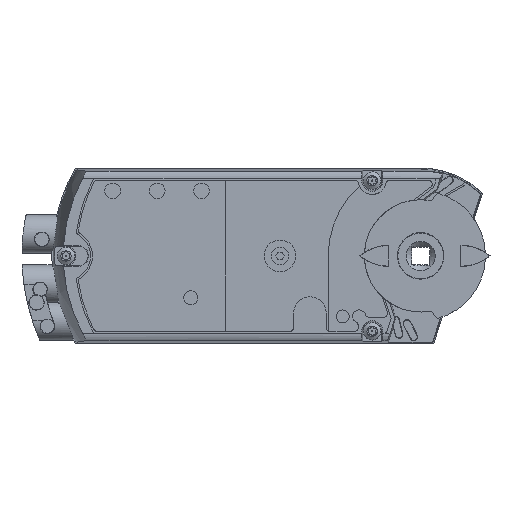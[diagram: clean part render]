
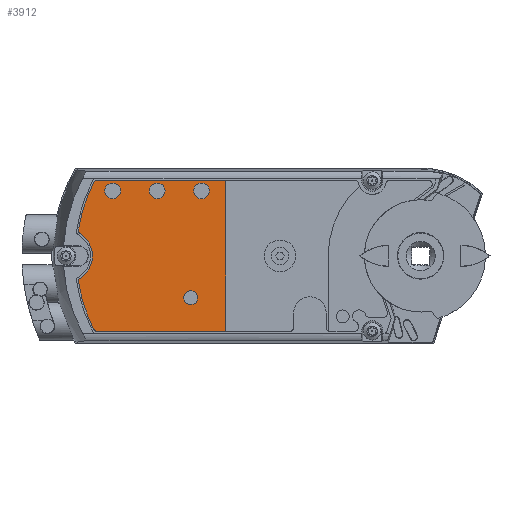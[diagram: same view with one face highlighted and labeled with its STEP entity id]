
A CAD part, top view. The second image highlights one B-rep face of the part: STEP entity #3912.
In plain terms, the highlighted planar face has unit normal (0, 0, 1).
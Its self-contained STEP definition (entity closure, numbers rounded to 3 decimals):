
#3912=ADVANCED_FACE('',(#5640,#5641,#5642,#5643,#5644),#4358,.T.);
#4358=PLANE('',#10951);
#4588=LINE('',#14211,#5116);
#4592=LINE('',#14233,#5120);
#4593=LINE('',#14235,#5121);
#5116=VECTOR('',#11875,1.);
#5120=VECTOR('',#11895,1.);
#5121=VECTOR('',#11896,1.);
#5640=FACE_BOUND('',#5801,.T.);
#5641=FACE_BOUND('',#5802,.T.);
#5642=FACE_BOUND('',#5803,.T.);
#5643=FACE_BOUND('',#5804,.T.);
#5644=FACE_BOUND('',#5805,.T.);
#5801=EDGE_LOOP('',(#6368));
#5802=EDGE_LOOP('',(#6369));
#5803=EDGE_LOOP('',(#6370));
#5804=EDGE_LOOP('',(#6371));
#5805=EDGE_LOOP('',(#6372,#6373,#6374,#6375,#6376,#6377,#6378,#6379,#6380,
#6381));
#6368=ORIENTED_EDGE('',*,*,#9381,.F.);
#6369=ORIENTED_EDGE('',*,*,#9382,.F.);
#6370=ORIENTED_EDGE('',*,*,#9383,.F.);
#6371=ORIENTED_EDGE('',*,*,#9384,.F.);
#6372=ORIENTED_EDGE('',*,*,#9385,.T.);
#6373=ORIENTED_EDGE('',*,*,#9374,.T.);
#6374=ORIENTED_EDGE('',*,*,#9386,.F.);
#6375=ORIENTED_EDGE('',*,*,#9387,.T.);
#6376=ORIENTED_EDGE('',*,*,#9388,.T.);
#6377=ORIENTED_EDGE('',*,*,#9389,.T.);
#6378=ORIENTED_EDGE('',*,*,#9390,.F.);
#6379=ORIENTED_EDGE('',*,*,#9391,.T.);
#6380=ORIENTED_EDGE('',*,*,#9392,.T.);
#6381=ORIENTED_EDGE('',*,*,#9393,.T.);
#8609=VERTEX_POINT('',#14210);
#8610=VERTEX_POINT('',#14212);
#8616=VERTEX_POINT('',#14226);
#8617=VERTEX_POINT('',#14228);
#8618=VERTEX_POINT('',#14230);
#8619=VERTEX_POINT('',#14232);
#8620=VERTEX_POINT('',#14234);
#8621=VERTEX_POINT('',#14236);
#8622=VERTEX_POINT('',#14238);
#8623=VERTEX_POINT('',#14240);
#8624=VERTEX_POINT('',#14242);
#8625=VERTEX_POINT('',#14244);
#8626=VERTEX_POINT('',#14246);
#8627=VERTEX_POINT('',#14248);
#9374=EDGE_CURVE('',#8610,#8609,#4588,.T.);
#9381=EDGE_CURVE('',#8616,#8616,#10489,.T.);
#9382=EDGE_CURVE('',#8617,#8617,#10490,.T.);
#9383=EDGE_CURVE('',#8618,#8618,#10491,.T.);
#9384=EDGE_CURVE('',#8619,#8619,#10492,.T.);
#9385=EDGE_CURVE('',#8620,#8610,#4592,.T.);
#9386=EDGE_CURVE('',#8621,#8609,#4593,.T.);
#9387=EDGE_CURVE('',#8621,#8622,#10493,.T.);
#9388=EDGE_CURVE('',#8622,#8623,#10494,.T.);
#9389=EDGE_CURVE('',#8623,#8624,#10495,.T.);
#9390=EDGE_CURVE('',#8625,#8624,#10496,.T.);
#9391=EDGE_CURVE('',#8625,#8626,#10497,.T.);
#9392=EDGE_CURVE('',#8626,#8627,#10498,.T.);
#9393=EDGE_CURVE('',#8627,#8620,#10499,.T.);
#10489=CIRCLE('',#10940,4.5);
#10490=CIRCLE('',#10941,4.5);
#10491=CIRCLE('',#10942,4.5);
#10492=CIRCLE('',#10943,4.);
#10493=CIRCLE('',#10944,2.);
#10494=CIRCLE('',#10945,93.5);
#10495=CIRCLE('',#10946,2.);
#10496=CIRCLE('',#10947,15.);
#10497=CIRCLE('',#10948,2.);
#10498=CIRCLE('',#10949,93.5);
#10499=CIRCLE('',#10950,2.);
#10940=AXIS2_PLACEMENT_3D('',#14225,#11887,#11888);
#10941=AXIS2_PLACEMENT_3D('',#14227,#11889,#11890);
#10942=AXIS2_PLACEMENT_3D('',#14229,#11891,#11892);
#10943=AXIS2_PLACEMENT_3D('',#14231,#11893,#11894);
#10944=AXIS2_PLACEMENT_3D('',#14237,#11897,#11898);
#10945=AXIS2_PLACEMENT_3D('',#14239,#11899,#11900);
#10946=AXIS2_PLACEMENT_3D('',#14241,#11901,#11902);
#10947=AXIS2_PLACEMENT_3D('',#14243,#11903,#11904);
#10948=AXIS2_PLACEMENT_3D('',#14245,#11905,#11906);
#10949=AXIS2_PLACEMENT_3D('',#14247,#11907,#11908);
#10950=AXIS2_PLACEMENT_3D('',#14249,#11909,#11910);
#10951=AXIS2_PLACEMENT_3D('',#14250,#11911,#11912);
#11875=DIRECTION('',(0.,1.,0.));
#11887=DIRECTION('',(0.,0.,1.));
#11888=DIRECTION('',(1.,0.,0.));
#11889=DIRECTION('',(0.,0.,1.));
#11890=DIRECTION('',(1.,0.,0.));
#11891=DIRECTION('',(0.,0.,1.));
#11892=DIRECTION('',(1.,0.,0.));
#11893=DIRECTION('',(0.,0.,1.));
#11894=DIRECTION('',(1.,0.,0.));
#11895=DIRECTION('',(1.,0.,0.));
#11896=DIRECTION('',(1.,0.,0.));
#11897=DIRECTION('',(0.,0.,1.));
#11898=DIRECTION('',(1.,0.,0.));
#11899=DIRECTION('',(0.,0.,1.));
#11900=DIRECTION('',(1.,0.,0.));
#11901=DIRECTION('',(0.,0.,1.));
#11902=DIRECTION('',(1.,0.,0.));
#11903=DIRECTION('',(0.,0.,1.));
#11904=DIRECTION('',(1.,0.,0.));
#11905=DIRECTION('',(0.,0.,1.));
#11906=DIRECTION('',(1.,0.,0.));
#11907=DIRECTION('',(0.,0.,1.));
#11908=DIRECTION('',(1.,0.,0.));
#11909=DIRECTION('',(0.,0.,1.));
#11910=DIRECTION('',(1.,0.,0.));
#11911=DIRECTION('',(0.,0.,1.));
#11912=DIRECTION('',(1.,0.,0.));
#14210=CARTESIAN_POINT('',(-111.,43.,33.65));
#14211=CARTESIAN_POINT('',(-111.,-96.,33.65));
#14212=CARTESIAN_POINT('',(-111.,-43.,33.65));
#14225=CARTESIAN_POINT('',(-175.398,37.,33.65));
#14226=CARTESIAN_POINT('',(-170.898,37.,33.65));
#14227=CARTESIAN_POINT('',(-150.098,37.,33.65));
#14228=CARTESIAN_POINT('',(-145.598,37.,33.65));
#14229=CARTESIAN_POINT('',(-124.798,37.,33.65));
#14230=CARTESIAN_POINT('',(-120.298,37.,33.65));
#14231=CARTESIAN_POINT('',(-130.997,-23.8,33.65));
#14232=CARTESIAN_POINT('',(-126.997,-23.8,33.65));
#14233=CARTESIAN_POINT('',(-184.398,-43.,33.65));
#14234=CARTESIAN_POINT('',(-184.398,-43.,33.65));
#14235=CARTESIAN_POINT('',(-184.398,43.,33.65));
#14236=CARTESIAN_POINT('',(-184.398,43.,33.65));
#14237=CARTESIAN_POINT('',(-184.398,41.,33.65));
#14238=CARTESIAN_POINT('',(-186.186,41.896,33.65));
#14239=CARTESIAN_POINT('',(-102.597,0.,33.65));
#14240=CARTESIAN_POINT('',(-194.932,14.719,33.65));
#14241=CARTESIAN_POINT('',(-192.957,14.404,33.65));
#14242=CARTESIAN_POINT('',(-194.019,12.709,33.65));
#14243=CARTESIAN_POINT('',(-201.986,0.,33.65));
#14244=CARTESIAN_POINT('',(-194.019,-12.709,33.65));
#14245=CARTESIAN_POINT('',(-192.957,-14.404,33.65));
#14246=CARTESIAN_POINT('',(-194.932,-14.719,33.65));
#14247=CARTESIAN_POINT('',(-102.597,0.,33.65));
#14248=CARTESIAN_POINT('',(-186.186,-41.896,33.65));
#14249=CARTESIAN_POINT('',(-184.398,-41.,33.65));
#14250=CARTESIAN_POINT('',(-184.398,-41.,33.65));
